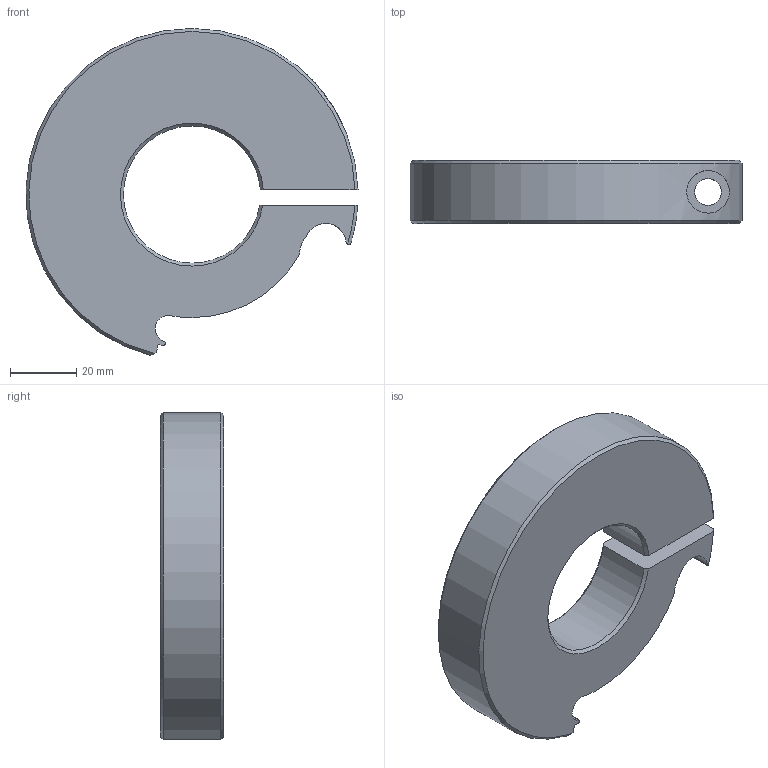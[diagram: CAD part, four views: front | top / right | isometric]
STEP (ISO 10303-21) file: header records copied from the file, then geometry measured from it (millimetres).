
FILE_DESCRIPTION((''),'2;1');
FILE_NAME('MQCL-40-A','2016-09-09T',('SYSTEM'),(''),'PRO/ENGINEER BY PARAMETRIC TECHNOLOGY CORPORATION, 2015110','PRO/ENGINEER BY PARAMETRIC TECHNOLOGY CORPORATION, 2015110','');
FILE_SCHEMA(('AUTOMOTIVE_DESIGN { 1 0 10303 214 1 1 1 1 }'));
Length unit declared in the file: metre
Products named in the file (1): MQCL-40-A
Bounding box: 99.94 x 19 x 98.45 mm (x, y, z)
Volume: 100595.9 mm3; surface area: 21220.4 mm2
Topology: 1 solids, 1 shells, 33 faces, 112 edges, 82 vertices
Faces by surface type: cylinder 17, plane 8, cone 8
Entity records: 1743 total; most frequent: CARTESIAN_POINT 436, ORIENTED_EDGE 224, DIRECTION 211, EDGE_CURVE 112, AXIS2_PLACEMENT_3D 90, VERTEX_POINT 82, CIRCLE 57, EDGE_LOOP 38
